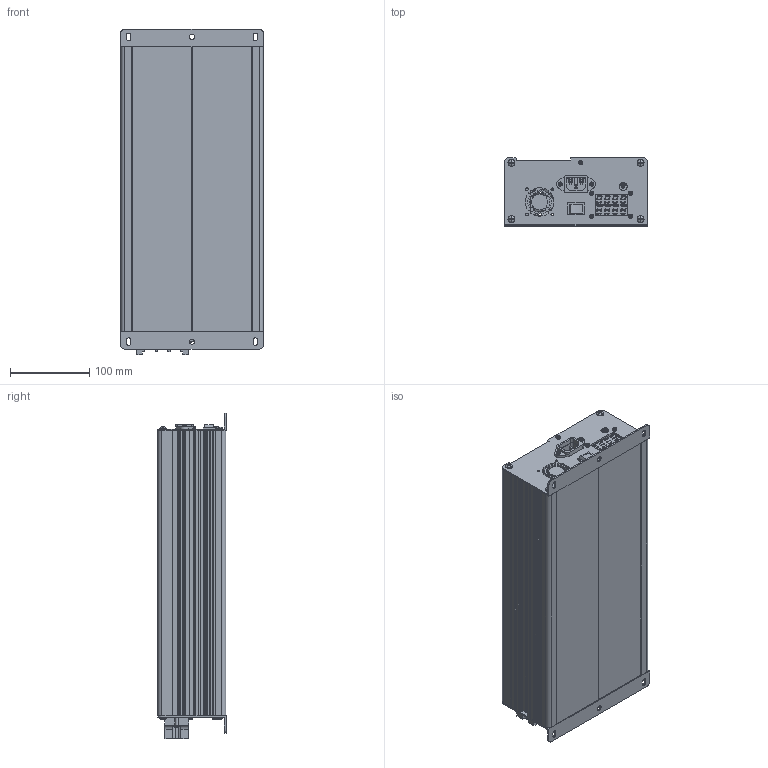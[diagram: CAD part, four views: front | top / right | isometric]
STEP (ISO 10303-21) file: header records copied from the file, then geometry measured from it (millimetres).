
FILE_DESCRIPTION(/* description */ (''),/* implementation_level */ '2;1');
FILE_NAME(/* name */ 'H:\03_충전기_전기종\1.5kW 충전기\2021.02.04_1.5kW 충전기.stp',/* time_stamp */ '2021-02-04T16:18:14+09:00',/* author */ ('jjang'),/* organization */ (''),/* preprocessor_version */ 'ST-DEVELOPER v18.1',/* originating_system */ 'Autodesk Inventor 2021',/* authorisation */ '');
FILE_SCHEMA (('AUTOMOTIVE_DESIGN { 1 0 10303 214 3 1 1 }'));
Products named in the file (1): 20210204_1.5kW 충전기_Shrinkwrap_1
Bounding box: 180 x 86 x 410.8 mm (x, y, z)
Volume: 1221246.8 mm3; surface area: 700570.7 mm2
Topology: 12 solids, 12 shells, 3578 faces, 9968 edges, 6588 vertices
Faces by surface type: plane 2471, cylinder 917, torus 115, bspline 38, cone 37
Full cylindrical faces by diameter (mm): 0.8 x4, 2.8 x18, 3 x4, 3.2 x14, 3.4 x2, 3.5 x4, 3.8 x6, 3.9 x1, 4 x2, 4.3 x4, 4.5 x4, 5 x5, 5.4 x14, 5.5 x3, 5.636 x6, 6 x3, 6.6 x2, 8.8 x8, 10 x1, 10.286 x3, 10.5 x3, 20 x1, 27 x1, 37 x1, 48.3 x1
Entity records: 122030 total; most frequent: CARTESIAN_POINT 25437, ORIENTED_EDGE 19936, DIRECTION 19297, EDGE_CURVE 9968, LINE 6815, VECTOR 6815, VERTEX_POINT 6588, AXIS2_PLACEMENT_3D 6241
